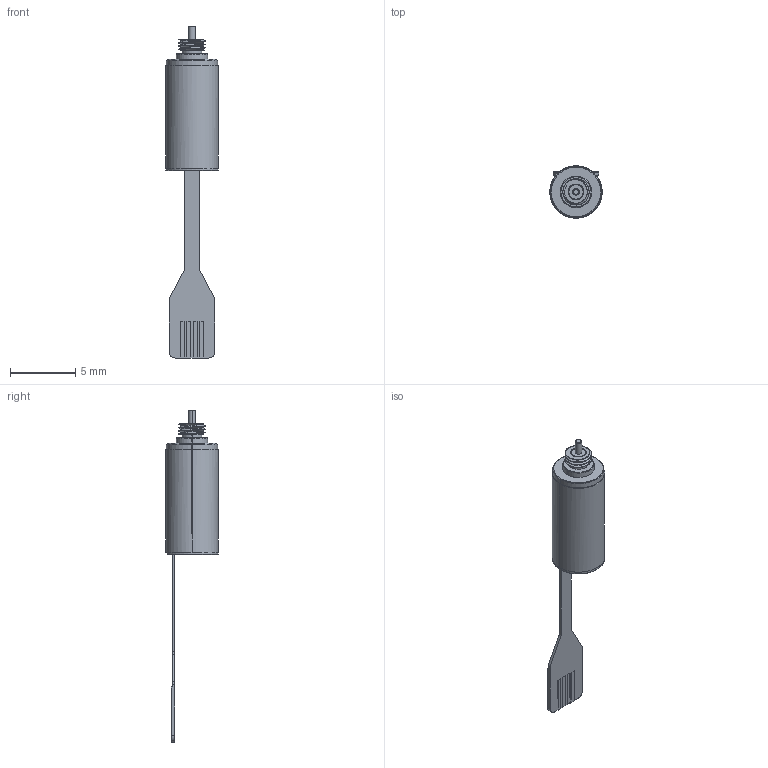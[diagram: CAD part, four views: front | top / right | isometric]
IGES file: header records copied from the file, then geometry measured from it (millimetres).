
Start section: SolidWorks IGES file using analytic representation for surfaces
Global section: file name: C:\Users\saito\Documents\モータweb_３D図面\3D\2 ブラシレス標準品\IGES\BMN04-0829.igs,15HSolidWorks; native system: 2019; preprocessor: SolidWorks 2019; author: saito; date: 201029.162517; units: millimetre
Bounding box: 4 x 4 x 25.35 mm (x, y, z)
Surface area: 216.8 mm2 (no closed solid volume)
Topology: 0 solids, 0 shells, 92 faces, 1007 edges, 1007 vertices
Faces by surface type: bspline 51, revolution 41
